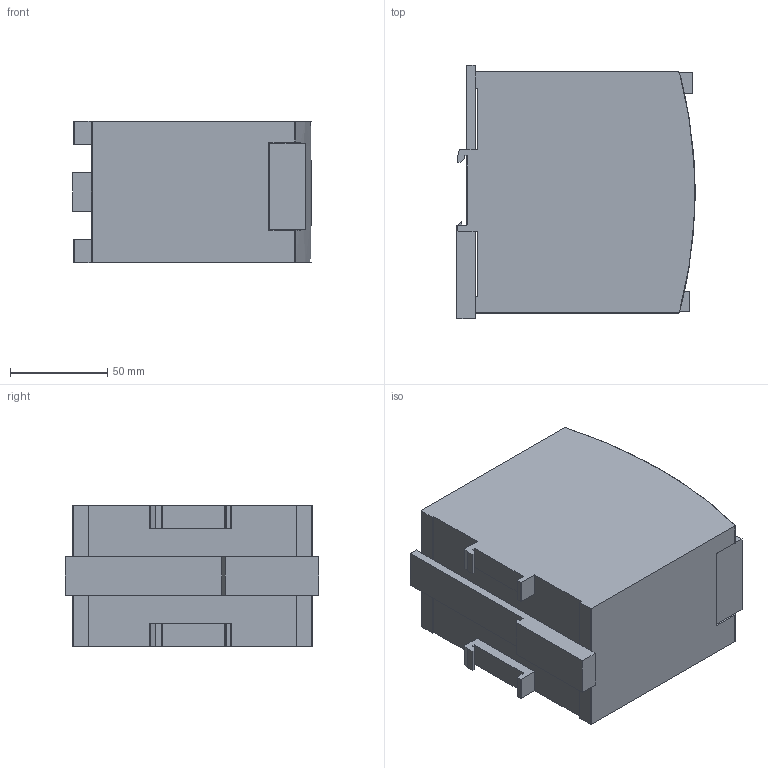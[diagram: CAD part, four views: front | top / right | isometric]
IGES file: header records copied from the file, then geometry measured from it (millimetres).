
Start section: SolidWorks IGES FILE using analytic representation for surfaces
Global section: file name: C:\Vertrieb\SL5_300\SL5_300.IGS; native system: SolidWorks 2003 by SolidWorks Corporation; preprocessor: Version 5.3; author: heinrij; date: 030917.105632; units: millimetre
Bounding box: 122.63 x 130.5 x 73 mm (x, y, z)
Surface area: 75768.9 mm2 (no closed solid volume)
Topology: 0 solids, 0 shells, 719 faces, 6700 edges, 6700 vertices
Faces by surface type: bspline 677, revolution 42
